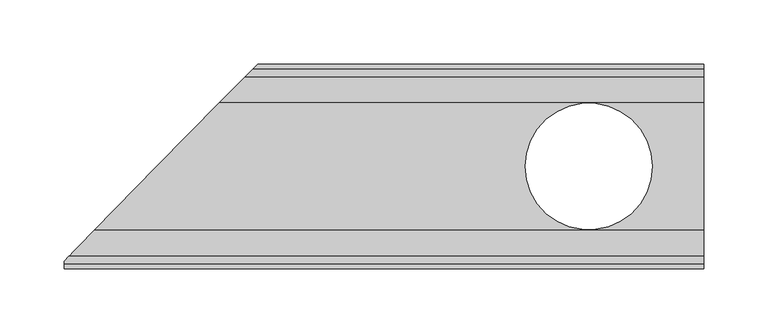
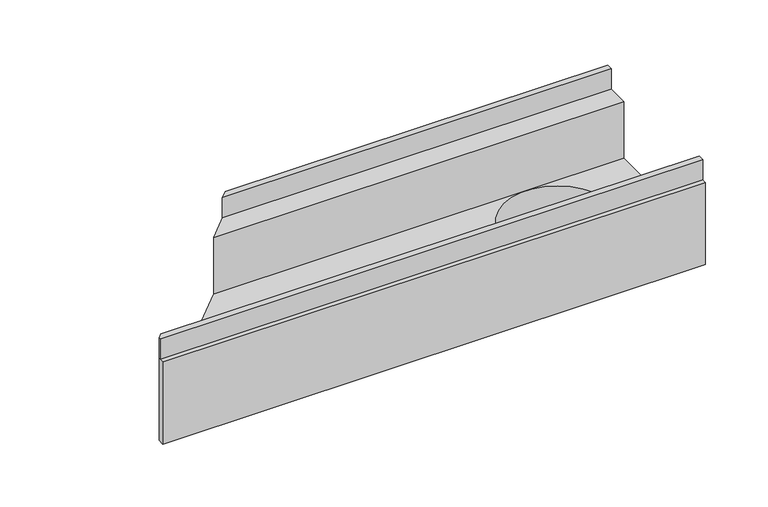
"""IFC4 building model written with IfcOpenShell, lengths in millimetres: sanitary terminal geometry, PF_ST_Slabdrain_H100SK_channels_USA_ACO : H100SK-10 Constant Depth Channel with Ductile iron edge rail."""

import ifcopenshell
import ifcopenshell.guid

model = None  # the IFC model being written
_history = None  # IfcOwnerHistory: only IFC2X3 demands one
_inside = {}  # id of a spatial element -> (the spatial element, [elements in it])
_under = {}  # id of a project, library or spatial element -> (it, [spatial elements below it])
_declared = {}  # id of a project -> (the project, [libraries it declares])
_typed = {}  # id of a type object -> (the type object, [elements of that type])
_made_of = {}  # id of a material, layer set ... -> (it, [elements and type objects made of it])


def new_model(schema):
    """Start an empty IFC model of exactly this schema.

    Asked for "IFC4X3", IfcOpenShell would pick the latest addendum, in which some entities
    have other attributes; the version numbers below select the first issue.
    IFC2X3 requires an IfcOwnerHistory on every rooted entity: one is made here for all.
    """
    global model, _history
    if schema == "IFC4X3":
        model = ifcopenshell.file(schema_version=(4, 3, 0, 0))
    else:
        model = ifcopenshell.file(schema=schema)
    _inside.clear()
    _under.clear()
    _declared.clear()
    _typed.clear()
    _made_of.clear()
    _history = None
    if model.schema == "IFC2X3":
        org = make("IfcOrganization", Name="unknown")
        user = make(
            "IfcPersonAndOrganization",
            ThePerson=make("IfcPerson", FamilyName="unknown"),
            TheOrganization=org,
        )
        app = make(
            "IfcApplication",
            ApplicationDeveloper=org,
            Version="unknown",
            ApplicationFullName="unknown",
            ApplicationIdentifier="unknown",
        )
        _history = make(
            "IfcOwnerHistory",
            OwningUser=user,
            OwningApplication=app,
            ChangeAction="ADDED",
            CreationDate=0,
        )
    return model


def make(cls, **values):
    """One entity of the class cls with the attributes given. An attribute that is None is left unset."""
    return model.create_entity(
        cls, **{name: value for name, value in values.items() if value is not None}
    )


def rooted(cls, **values):
    """An entity with a GlobalId (a new one), such as an element, a storey or a relation."""
    return make(cls, GlobalId=ifcopenshell.guid.new(), OwnerHistory=_history, **values)


def si_unit(unit_type, name, prefix=None):
    """IfcSIUnit, for example si_unit("LENGTHUNIT", "METRE", prefix="MILLI")."""
    return make("IfcSIUnit", UnitType=unit_type, Prefix=prefix, Name=name)


def assignment(units):
    """IfcUnitAssignment: the units of a project."""
    return None if units is None else make("IfcUnitAssignment", Units=units)


def point(xyz):
    """IfcCartesianPoint."""
    return None if xyz is None else make("IfcCartesianPoint", Coordinates=xyz)


def direction(xyz):
    """IfcDirection."""
    return None if xyz is None else make("IfcDirection", DirectionRatios=xyz)


def frame(location, z_axis=None, x_axis=None):
    """IfcAxis2Placement3D, a coordinate frame: its origin and axes. An axis left out is left unset."""
    return make(
        "IfcAxis2Placement3D",
        Location=point(location),
        Axis=direction(z_axis),
        RefDirection=direction(x_axis),
    )


def origin():
    """The frame at (0, 0, 0) with its axes left unset."""
    return frame((0.0, 0.0, 0.0))


def place(relative_to, where):
    """IfcLocalPlacement: puts the frame where relative to a parent placement (None: the world)."""
    return make(
        "IfcLocalPlacement", PlacementRelTo=relative_to, RelativePlacement=where
    )


def context(
    kind, dimensions, precision=None, world=None, true_north=None, identifier=None
):
    """IfcGeometricRepresentationContext, for example the 3D "Model" context."""
    return make(
        "IfcGeometricRepresentationContext",
        ContextIdentifier=identifier,
        ContextType=kind,
        CoordinateSpaceDimension=dimensions,
        Precision=precision,
        WorldCoordinateSystem=world,
        TrueNorth=true_north,
    )


def project(units=None, contexts=None):
    """IfcProject with its units and contexts."""
    return rooted(
        "IfcProject",
        Name="project",
        RepresentationContexts=contexts,
        UnitsInContext=assignment(units),
    )


def spatial(cls, under=None, at=None, **own):
    """A site, building, storey or space (cls), placed at a placement, below another one or the project."""
    s = rooted(cls, ObjectPlacement=at, **own)
    if under is not None:
        _under.setdefault(under.id(), (under, []))[1].append(s)
    return s


def polyline(points):
    """IfcPolyline through the points."""
    return make("IfcPolyline", Points=[point(p) for p in points])


def circle_curve(where, radius):
    """IfcCircle in the frame where."""
    return make("IfcCircle", Position=where, Radius=radius)


def outline(outer, holes=None, kind="AREA"):
    """IfcArbitraryClosedProfileDef: a profile drawn as a closed curve; with holes, ...WithVoids."""
    if holes is None:
        return make("IfcArbitraryClosedProfileDef", ProfileType=kind, OuterCurve=outer)
    return make(
        "IfcArbitraryProfileDefWithVoids",
        ProfileType=kind,
        OuterCurve=outer,
        InnerCurves=holes,
    )


def extrude(swept, where, along, depth):
    """IfcExtrudedAreaSolid: the profile swept, set in the frame where, extruded along a direction by depth."""
    return make(
        "IfcExtrudedAreaSolid",
        SweptArea=swept,
        Position=where,
        ExtrudedDirection=direction(along),
        Depth=depth,
    )


def shape(context_of_items, identifier, shape_type, items):
    """IfcShapeRepresentation: the items that make up one representation, for example the "Body"."""
    return make(
        "IfcShapeRepresentation",
        ContextOfItems=context_of_items,
        RepresentationIdentifier=identifier,
        RepresentationType=shape_type,
        Items=items,
    )


def source(mapping_origin, context_of_items, identifier, shape_type, items):
    """IfcRepresentationMap: a shape defined once, which mapped items show again and again."""
    return make(
        "IfcRepresentationMap",
        MappingOrigin=mapping_origin,
        MappedRepresentation=shape(context_of_items, identifier, shape_type, items),
    )


def transform(
    local_origin,
    x_axis=None,
    y_axis=None,
    z_axis=None,
    scale=None,
    scale2=None,
    scale3=None,
    uniform=True,
):
    """IfcCartesianTransformationOperator3D, or its non-uniform kind. x_axis, y_axis, z_axis: its Axis1, 2, 3."""
    if uniform:
        return make(
            "IfcCartesianTransformationOperator3D",
            Axis1=direction(x_axis),
            Axis2=direction(y_axis),
            LocalOrigin=point(local_origin),
            Scale=scale,
            Axis3=direction(z_axis),
        )
    return make(
        "IfcCartesianTransformationOperator3DnonUniform",
        Axis1=direction(x_axis),
        Axis2=direction(y_axis),
        LocalOrigin=point(local_origin),
        Scale=scale,
        Axis3=direction(z_axis),
        Scale2=scale2,
        Scale3=scale3,
    )


def mapped(mapping_source, mapping_target):
    """IfcMappedItem: shows the shape of a source again, moved by a transform."""
    return make(
        "IfcMappedItem", MappingSource=mapping_source, MappingTarget=mapping_target
    )


def made_of(thing, what):
    """Note that an element or type object is made of a material, layer set ...; save() writes the relation."""
    if what is not None:
        _made_of.setdefault(what.id(), (what, []))[1].append(thing)
    return thing


def element(
    cls,
    number,
    at=None,
    inside=None,
    cuts=None,
    type_object=None,
    material=None,
    context=None,
    identifier="Body",
    shape_type=None,
    held_by="IfcProductDefinitionShape",
    body=None,
    shapes=None,
    **own,
):
    """One element of the class cls, such as IfcWall. Its Tag is "e" and its number.

    at: its placement. inside: the storey or other place that contains it. cuts: it is an
    opening in that element (IfcRelVoidsElement). A single representation is given by context,
    identifier, shape_type and body (its items); several are given by shapes. held_by: the class
    of the entity that holds the representations. save() writes the other relations.
    """
    e = rooted(cls, Tag="e%d" % number, ObjectPlacement=at, **own)
    if body is not None:
        shapes = [shape(context, identifier, shape_type, body)]
    if shapes is not None:
        e.Representation = make(held_by, Representations=shapes)
    if inside is not None:
        _inside.setdefault(inside.id(), (inside, []))[1].append(e)
    if cuts is not None:
        rooted(
            "IfcRelVoidsElement", RelatingBuildingElement=cuts, RelatedOpeningElement=e
        )
    if type_object is not None:
        _typed.setdefault(type_object.id(), (type_object, []))[1].append(e)
    return made_of(e, material)


def aggregate(whole, parts):
    """IfcRelAggregates: a whole, such as a stair, and the parts it consists of."""
    return rooted("IfcRelAggregates", RelatingObject=whole, RelatedObjects=parts)


def save(model, path):
    """Write the relations noted so far, then the file.

    IfcRelAggregates (storeys below a building ...), IfcRelContainedInSpatialStructure (elements
    in a storey), IfcRelDefinesByType, IfcRelAssociatesMaterial and IfcRelDeclares: one each for
    every whole, place, type object, material and project.
    """
    for whole, parts in _under.values():
        aggregate(whole, parts)
    for where, things in _inside.values():
        rooted(
            "IfcRelContainedInSpatialStructure",
            RelatedElements=things,
            RelatingStructure=where,
        )
    for kind, things in _typed.values():
        rooted("IfcRelDefinesByType", RelatedObjects=things, RelatingType=kind)
    for what, things in _made_of.values():
        rooted("IfcRelAssociatesMaterial", RelatedObjects=things, RelatingMaterial=what)
    for by, libraries in _declared.values():
        rooted("IfcRelDeclares", RelatingContext=by, RelatedDefinitions=libraries)
    model.write(path)


def plane_surface(at):
    """IfcPlane: the flat surface through the origin of the frame at, square to its z axis."""
    return make("IfcPlane", Position=at)


def revolved_surface(curve, axis_point, axis_direction):
    """IfcSurfaceOfRevolution: the curve turned about the line through axis_point along axis_direction."""
    return make(
        "IfcSurfaceOfRevolution",
        SweptCurve=make("IfcArbitraryOpenProfileDef", ProfileType="CURVE", Curve=curve),
        AxisPosition=make("IfcAxis1Placement", Location=point(axis_point), Axis=direction(axis_direction)),
    )


def advanced_brep(points, edges, surfaces, faces):
    """IfcAdvancedBrep: a solid bounded by faces that lie on surfaces and meet in shared edges.

    An edge is (start, end): straight between two places in points (the first is 0);
    or (start, end, curve); or (start, end, curve, False) where it runs against its curve.
    A face is (place in surfaces, loops), or (place, loops, False) where it looks against
    its surface's normal. A loop lists edges by number (the first is 1), with a minus sign
    where the edge is run from its end to its start. The first loop is the outer one.
    """
    corners = [point(p) for p in points]
    vertices = [make("IfcVertexPoint", VertexGeometry=c) for c in corners]
    made = []
    for start, end, *more in edges:
        made.append(
            make(
                "IfcEdgeCurve",
                EdgeStart=vertices[start],
                EdgeEnd=vertices[end],
                EdgeGeometry=more[0] if more else make("IfcPolyline", Points=[corners[start], corners[end]]),
                SameSense=more[1] if len(more) > 1 else True,
            )
        )
    hull = []
    for where, loops, *sense in faces:
        bounds = []
        for j, loop in enumerate(loops):
            ring = [make("IfcOrientedEdge", EdgeElement=made[abs(k) - 1], Orientation=k > 0) for k in loop]
            bounds.append(
                make(
                    "IfcFaceOuterBound" if j == 0 else "IfcFaceBound",
                    Bound=make("IfcEdgeLoop", EdgeList=ring),
                    Orientation=True,
                )
            )
        hull.append(make("IfcAdvancedFace", Bounds=bounds, FaceSurface=surfaces[where], SameSense=sense[0] if sense else True))
    return make("IfcAdvancedBrep", Outer=make("IfcClosedShell", CfsFaces=hull))


def sanitary_terminal_ea681f09(model_context):
    return source(origin(), model_context, "Body", "SolidModel", [
        advanced_brep(
        [(-1105.7456554, 80.0, -20.0), (-1105.7456554, 50.0, -20.0), (-1105.7456554, 50.0, -75.0), (-1105.7456554, -50.0, -75.0), (-1105.7456554, -50.0, -20.0), (-1105.7456554, -80.0, -20.0), (-1105.7456554, -80.0, -100.0), (-1105.7456554, 80.0, -100.0), (-1605.6176554, -80.0, -100.0), (-1605.6176554, -80.0, -20.0), (-1605.6176554, -73.8943556, -20.0), (-1605.6176554, -73.8943556, -100.0), (-1454.3860933, 80.0, -20.0), (-1483.8677326, 49.9992659, -20.0), (-1582.1358286, -49.9990751, -20.0), (-1533.0018743, 0.0, -100.0), (-1454.3860933, 80.0, -100.0), (-1245.2456554, 0.0, -100.0), (-1146.2456554, 0.0, -100.0), (-1483.8677326, 49.9992659, -75.0), (-1533.0018743, 0.0, -75.0), (-1582.1358286, -49.9990751, -75.0), (-1146.2456554, 0.0, -75.0), (-1245.2456554, 0.0, -75.0)],
        [
            (0, 1),
            (1, 2),
            (2, 3),
            (3, 4),
            (4, 5),
            (5, 6),
            (6, 7),
            (7, 0),
            (8, 9),
            (9, 10),
            (10, 11),
            (11, 8),
            (0, 12),
            (12, 13),
            (13, 1),
            (4, 14),
            (14, 10),
            (9, 5),
            (8, 6),
            (11, 15),
            (15, 16),
            (16, 7),
            (17, 18, circle_curve(frame((-1195.7456554, 0.0, -100.0), z_axis=(0.0, 0.0, 1.0), x_axis=(1.0, 0.0, 0.0)), 49.5)),
            (18, 17, circle_curve(frame((-1195.7456554, 0.0, -100.0), z_axis=(0.0, 0.0, 1.0), x_axis=(1.0, 0.0, 0.0)), 49.5)),
            (16, 12),
            (13, 19),
            (19, 2),
            (19, 20),
            (20, 21),
            (21, 3),
            (22, 23, circle_curve(frame((-1195.7456554, 0.0, -75.0), z_axis=(0.0, 0.0, -1.0), x_axis=(1.0, 0.0, 0.0)), 49.5)),
            (23, 22, circle_curve(frame((-1195.7456554, 0.0, -75.0), z_axis=(0.0, 0.0, -1.0), x_axis=(1.0, 0.0, 0.0)), 49.5)),
            (21, 14),
            (22, 18),
            (17, 23),
            (20, 15),
        ],
        [
            plane_surface(frame((-1105.7456554, 0.0, -53.75), z_axis=(1.0, 0.0, 0.0), x_axis=(0.0, -1.0, 0.0))),
            plane_surface(frame((-1605.6176554, 0.0, -53.75), z_axis=(-1.0, 0.0, 0.0), x_axis=(0.0, -1.0, 0.0))),
            plane_surface(frame((-1605.6176554, 64.9995148, -20.0), z_axis=(0.0, 0.0, 1.0), x_axis=(0.0, -1.0, 0.0))),
            plane_surface(frame((-1605.6176554, -64.9995148, -20.0), z_axis=(0.0, 0.0, 1.0), x_axis=(0.0, -1.0, 0.0))),
            plane_surface(frame((-1605.6176554, -80.0, -60.0), z_axis=(0.0, -1.0, 0.0), x_axis=(0.0, 0.0, -1.0))),
            plane_surface(frame((-1605.6176554, 0.0, -100.0), z_axis=(0.0, 0.0, -1.0), x_axis=(0.0, 1.0, 0.0))),
            plane_surface(frame((-1605.6176554, 80.0, -60.0), z_axis=(0.0, 1.0, 0.0), x_axis=(0.0, 0.0, 1.0))),
            plane_surface(frame((-1605.6176554, 49.9990295, -47.5), z_axis=(1.94139869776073e-06, -0.9999999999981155, 0.0), x_axis=(0.0, 0.0, -1.0))),
            plane_surface(frame((-1605.6176554, 0.0, -75.0), z_axis=(0.0, 0.0, 1.0), x_axis=(0.0, -1.0, 0.0))),
            plane_surface(frame((-1605.6176554, -49.9990295, -47.5), z_axis=(1.94139869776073e-06, 0.9999999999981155, 0.0), x_axis=(0.0, 0.0, 1.0))),
            revolved_surface(polyline([(-1146.2456554, 0.0, -100.0), (-1146.2456554, 0.0, -75.0)]), (-1195.7456554, 0.0, 0.0), (0.0, 0.0, -1.0)),
            plane_surface(frame((-1533.0018743, 0.0, 200.0), z_axis=(-0.71325044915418, 0.7009092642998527, 0.0), x_axis=(-0.7009092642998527, -0.71325044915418, 0.0))),
            plane_surface(frame((-1533.0018743, 0.0, 200.0), z_axis=(-0.7132504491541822, 0.7009092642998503, 0.0), x_axis=(0.7009092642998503, 0.7132504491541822, 0.0))),
        ],
        [
            (0, [[1, 2, 3, 4, 5, 6, 7, 8]]),
            (1, [[9, 10, 11, 12]]),
            (2, [[-1, 13, 14, 15]]),
            (3, [[-5, 16, 17, -10, 18]]),
            (4, [[-6, -18, -9, 19]]),
            (5, [[-7, -19, -12, 20, 21, 22], [23, 24]]),
            (6, [[-8, -22, 25, -13]]),
            (7, [[-2, -15, 26, 27]]),
            (8, [[-3, -27, 28, 29, 30], [31, 32]]),
            (9, [[-4, -30, 33, -16]]),
            (10, [[34, -23, 35, -31]]),
            (10, [[-34, -32, -35, -24]]),
            (11, [[36, -20, -11, -17, -33, -29]]),
            (12, [[-36, -28, -26, -14, -25, -21]]),
        ],
    ),
        extrude(outline(polyline([(-1105.7456554, 76.0), (-1105.7456554, 70.0), (-1464.2130659, 70.0), (-1458.3168823, 76.0), (-1105.7456554, 76.0)])), frame((0.0, 0.0, -20.0), z_axis=(0.0, 0.0, 1.0), x_axis=(1.0, 0.0, 0.0)), (0.0, 0.0, 1.0), 20.0),
        extrude(outline(polyline([(-1105.7456554, -70.0), (-1105.7456554, -76.0), (-1605.6176554, -76.0), (-1605.6176554, -73.8943556), (-1601.7906828, -70.0), (-1105.7456554, -70.0)])), frame((0.0, 0.0, -20.0), z_axis=(0.0, 0.0, 1.0), x_axis=(1.0, 0.0, 0.0)), (0.0, 0.0, 1.0), 20.0),
    ])


if __name__ == "__main__":
    model = new_model("IFC4")
    model_context = context("Model", 3, world=origin())
    ifc_project = project(units=[si_unit("LENGTHUNIT", "METRE", prefix="MILLI")], contexts=[model_context])
    site = spatial("IfcSite", under=ifc_project)
    building = spatial("IfcBuilding", under=site)
    placement = place(None, origin())
    sanitary_terminal_shape = sanitary_terminal_ea681f09(model_context)
    element("IfcSanitaryTerminal", 1, ObjectType="PF_ST_Slabdrain_H100SK_channels_USA_ACO : H100SK-10 Constant Depth Channel with Ductile iron edge rail", at=placement, inside=building, context=model_context, shape_type="MappedRepresentation", body=[
        mapped(sanitary_terminal_shape, transform((0.0, 0.0, 0.0), x_axis=(1.0, 0.0, 0.0), y_axis=(0.0, 1.0, 0.0), z_axis=(0.0, 0.0, 1.0))),
    ])
    save(model, "model.ifc")
